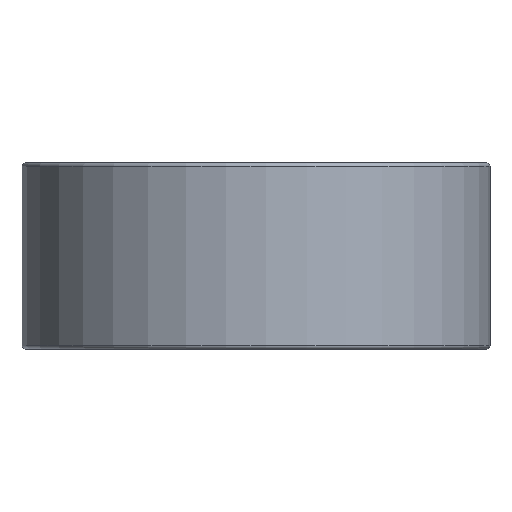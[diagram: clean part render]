
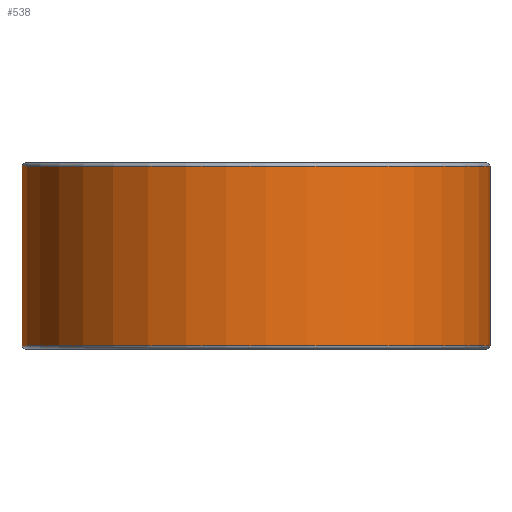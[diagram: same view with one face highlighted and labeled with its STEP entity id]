
A CAD part, front view. The second image highlights one B-rep face of the part: STEP entity #538.
In plain terms, the highlighted cylindrical face has radius 34 mm (diameter 68 mm), a full revolution.
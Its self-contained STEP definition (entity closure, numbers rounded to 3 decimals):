
#538=ADVANCED_FACE('',(#637,#638),#606,.T.);
#606=CYLINDRICAL_SURFACE('',#1353,34.);
#637=FACE_BOUND('',#705,.T.);
#638=FACE_BOUND('',#706,.T.);
#705=EDGE_LOOP('',(#813));
#706=EDGE_LOOP('',(#814));
#813=ORIENTED_EDGE('',*,*,#1155,.T.);
#814=ORIENTED_EDGE('',*,*,#1156,.T.);
#1061=VERTEX_POINT('',#1831);
#1062=VERTEX_POINT('',#1833);
#1155=EDGE_CURVE('',#1061,#1061,#1281,.T.);
#1156=EDGE_CURVE('',#1062,#1062,#1282,.T.);
#1281=CIRCLE('',#1351,34.);
#1282=CIRCLE('',#1352,34.);
#1351=AXIS2_PLACEMENT_3D('',#1830,#1504,#1505);
#1352=AXIS2_PLACEMENT_3D('',#1832,#1506,#1507);
#1353=AXIS2_PLACEMENT_3D('',#1834,#1508,#1509);
#1504=DIRECTION('',(0.,0.,-1.));
#1505=DIRECTION('',(1.,0.,0.));
#1506=DIRECTION('',(0.,0.,1.));
#1507=DIRECTION('',(1.,0.,0.));
#1508=DIRECTION('',(0.,0.,-1.));
#1509=DIRECTION('',(-1.,0.,0.));
#1830=CARTESIAN_POINT('',(0.,0.,26.5));
#1831=CARTESIAN_POINT('',(34.,0.,26.5));
#1832=CARTESIAN_POINT('',(0.,0.,0.5));
#1833=CARTESIAN_POINT('',(34.,0.,0.5));
#1834=CARTESIAN_POINT('',(0.,0.,27.));
